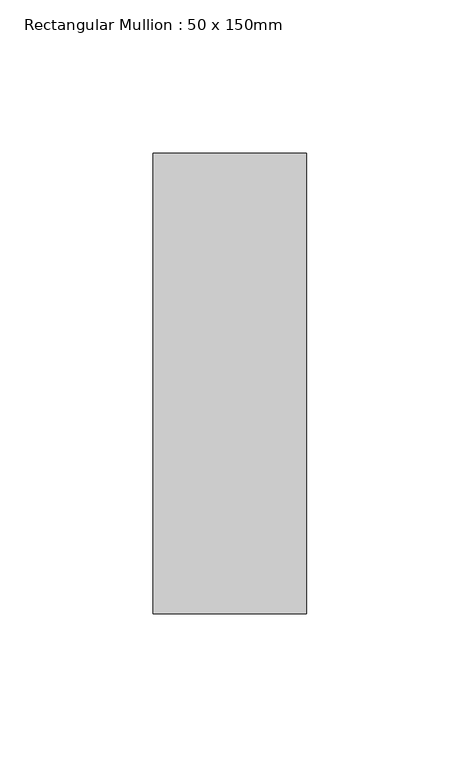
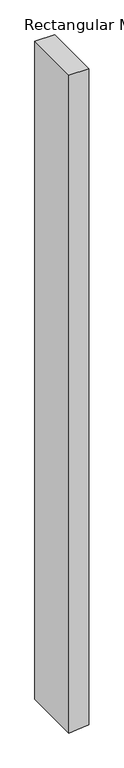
"""IFC4 building model written with IfcOpenShell, lengths in millimetres: member geometry, Rectangular Mullion : 50 x 150mm."""

import ifcopenshell
import ifcopenshell.guid

model = None  # the IFC model being written
_history = None  # IfcOwnerHistory: only IFC2X3 demands one
_inside = {}  # id of a spatial element -> (the spatial element, [elements in it])
_under = {}  # id of a project, library or spatial element -> (it, [spatial elements below it])
_declared = {}  # id of a project -> (the project, [libraries it declares])
_typed = {}  # id of a type object -> (the type object, [elements of that type])
_made_of = {}  # id of a material, layer set ... -> (it, [elements and type objects made of it])


def new_model(schema):
    """Start an empty IFC model of exactly this schema.

    Asked for "IFC4X3", IfcOpenShell would pick the latest addendum, in which some entities
    have other attributes; the version numbers below select the first issue.
    IFC2X3 requires an IfcOwnerHistory on every rooted entity: one is made here for all.
    """
    global model, _history
    if schema == "IFC4X3":
        model = ifcopenshell.file(schema_version=(4, 3, 0, 0))
    else:
        model = ifcopenshell.file(schema=schema)
    _inside.clear()
    _under.clear()
    _declared.clear()
    _typed.clear()
    _made_of.clear()
    _history = None
    if model.schema == "IFC2X3":
        org = make("IfcOrganization", Name="unknown")
        user = make(
            "IfcPersonAndOrganization",
            ThePerson=make("IfcPerson", FamilyName="unknown"),
            TheOrganization=org,
        )
        app = make(
            "IfcApplication",
            ApplicationDeveloper=org,
            Version="unknown",
            ApplicationFullName="unknown",
            ApplicationIdentifier="unknown",
        )
        _history = make(
            "IfcOwnerHistory",
            OwningUser=user,
            OwningApplication=app,
            ChangeAction="ADDED",
            CreationDate=0,
        )
    return model


def make(cls, **values):
    """One entity of the class cls with the attributes given. An attribute that is None is left unset."""
    return model.create_entity(
        cls, **{name: value for name, value in values.items() if value is not None}
    )


def rooted(cls, **values):
    """An entity with a GlobalId (a new one), such as an element, a storey or a relation."""
    return make(cls, GlobalId=ifcopenshell.guid.new(), OwnerHistory=_history, **values)


def si_unit(unit_type, name, prefix=None):
    """IfcSIUnit, for example si_unit("LENGTHUNIT", "METRE", prefix="MILLI")."""
    return make("IfcSIUnit", UnitType=unit_type, Prefix=prefix, Name=name)


def assignment(units):
    """IfcUnitAssignment: the units of a project."""
    return None if units is None else make("IfcUnitAssignment", Units=units)


def point(xyz):
    """IfcCartesianPoint."""
    return None if xyz is None else make("IfcCartesianPoint", Coordinates=xyz)


def direction(xyz):
    """IfcDirection."""
    return None if xyz is None else make("IfcDirection", DirectionRatios=xyz)


def frame(location, z_axis=None, x_axis=None):
    """IfcAxis2Placement3D, a coordinate frame: its origin and axes. An axis left out is left unset."""
    return make(
        "IfcAxis2Placement3D",
        Location=point(location),
        Axis=direction(z_axis),
        RefDirection=direction(x_axis),
    )


def origin():
    """The frame at (0, 0, 0) with its axes left unset."""
    return frame((0.0, 0.0, 0.0))


def place(relative_to, where):
    """IfcLocalPlacement: puts the frame where relative to a parent placement (None: the world)."""
    return make(
        "IfcLocalPlacement", PlacementRelTo=relative_to, RelativePlacement=where
    )


def context(
    kind, dimensions, precision=None, world=None, true_north=None, identifier=None
):
    """IfcGeometricRepresentationContext, for example the 3D "Model" context."""
    return make(
        "IfcGeometricRepresentationContext",
        ContextIdentifier=identifier,
        ContextType=kind,
        CoordinateSpaceDimension=dimensions,
        Precision=precision,
        WorldCoordinateSystem=world,
        TrueNorth=true_north,
    )


def project(units=None, contexts=None):
    """IfcProject with its units and contexts."""
    return rooted(
        "IfcProject",
        Name="project",
        RepresentationContexts=contexts,
        UnitsInContext=assignment(units),
    )


def spatial(cls, under=None, at=None, **own):
    """A site, building, storey or space (cls), placed at a placement, below another one or the project."""
    s = rooted(cls, ObjectPlacement=at, **own)
    if under is not None:
        _under.setdefault(under.id(), (under, []))[1].append(s)
    return s


def polyline(points):
    """IfcPolyline through the points."""
    return make("IfcPolyline", Points=[point(p) for p in points])


def outline(outer, holes=None, kind="AREA"):
    """IfcArbitraryClosedProfileDef: a profile drawn as a closed curve; with holes, ...WithVoids."""
    if holes is None:
        return make("IfcArbitraryClosedProfileDef", ProfileType=kind, OuterCurve=outer)
    return make(
        "IfcArbitraryProfileDefWithVoids",
        ProfileType=kind,
        OuterCurve=outer,
        InnerCurves=holes,
    )


def extrude(swept, where, along, depth):
    """IfcExtrudedAreaSolid: the profile swept, set in the frame where, extruded along a direction by depth."""
    return make(
        "IfcExtrudedAreaSolid",
        SweptArea=swept,
        Position=where,
        ExtrudedDirection=direction(along),
        Depth=depth,
    )


def shape(context_of_items, identifier, shape_type, items):
    """IfcShapeRepresentation: the items that make up one representation, for example the "Body"."""
    return make(
        "IfcShapeRepresentation",
        ContextOfItems=context_of_items,
        RepresentationIdentifier=identifier,
        RepresentationType=shape_type,
        Items=items,
    )


def source(mapping_origin, context_of_items, identifier, shape_type, items):
    """IfcRepresentationMap: a shape defined once, which mapped items show again and again."""
    return make(
        "IfcRepresentationMap",
        MappingOrigin=mapping_origin,
        MappedRepresentation=shape(context_of_items, identifier, shape_type, items),
    )


def transform(
    local_origin,
    x_axis=None,
    y_axis=None,
    z_axis=None,
    scale=None,
    scale2=None,
    scale3=None,
    uniform=True,
):
    """IfcCartesianTransformationOperator3D, or its non-uniform kind. x_axis, y_axis, z_axis: its Axis1, 2, 3."""
    if uniform:
        return make(
            "IfcCartesianTransformationOperator3D",
            Axis1=direction(x_axis),
            Axis2=direction(y_axis),
            LocalOrigin=point(local_origin),
            Scale=scale,
            Axis3=direction(z_axis),
        )
    return make(
        "IfcCartesianTransformationOperator3DnonUniform",
        Axis1=direction(x_axis),
        Axis2=direction(y_axis),
        LocalOrigin=point(local_origin),
        Scale=scale,
        Axis3=direction(z_axis),
        Scale2=scale2,
        Scale3=scale3,
    )


def mapped(mapping_source, mapping_target):
    """IfcMappedItem: shows the shape of a source again, moved by a transform."""
    return make(
        "IfcMappedItem", MappingSource=mapping_source, MappingTarget=mapping_target
    )


def made_of(thing, what):
    """Note that an element or type object is made of a material, layer set ...; save() writes the relation."""
    if what is not None:
        _made_of.setdefault(what.id(), (what, []))[1].append(thing)
    return thing


def element(
    cls,
    number,
    at=None,
    inside=None,
    cuts=None,
    type_object=None,
    material=None,
    context=None,
    identifier="Body",
    shape_type=None,
    held_by="IfcProductDefinitionShape",
    body=None,
    shapes=None,
    **own,
):
    """One element of the class cls, such as IfcWall. Its Tag is "e" and its number.

    at: its placement. inside: the storey or other place that contains it. cuts: it is an
    opening in that element (IfcRelVoidsElement). A single representation is given by context,
    identifier, shape_type and body (its items); several are given by shapes. held_by: the class
    of the entity that holds the representations. save() writes the other relations.
    """
    e = rooted(cls, Tag="e%d" % number, ObjectPlacement=at, **own)
    if body is not None:
        shapes = [shape(context, identifier, shape_type, body)]
    if shapes is not None:
        e.Representation = make(held_by, Representations=shapes)
    if inside is not None:
        _inside.setdefault(inside.id(), (inside, []))[1].append(e)
    if cuts is not None:
        rooted(
            "IfcRelVoidsElement", RelatingBuildingElement=cuts, RelatedOpeningElement=e
        )
    if type_object is not None:
        _typed.setdefault(type_object.id(), (type_object, []))[1].append(e)
    return made_of(e, material)


def aggregate(whole, parts):
    """IfcRelAggregates: a whole, such as a stair, and the parts it consists of."""
    return rooted("IfcRelAggregates", RelatingObject=whole, RelatedObjects=parts)


def save(model, path):
    """Write the relations noted so far, then the file.

    IfcRelAggregates (storeys below a building ...), IfcRelContainedInSpatialStructure (elements
    in a storey), IfcRelDefinesByType, IfcRelAssociatesMaterial and IfcRelDeclares: one each for
    every whole, place, type object, material and project.
    """
    for whole, parts in _under.values():
        aggregate(whole, parts)
    for where, things in _inside.values():
        rooted(
            "IfcRelContainedInSpatialStructure",
            RelatedElements=things,
            RelatingStructure=where,
        )
    for kind, things in _typed.values():
        rooted("IfcRelDefinesByType", RelatedObjects=things, RelatingType=kind)
    for what, things in _made_of.values():
        rooted("IfcRelAssociatesMaterial", RelatedObjects=things, RelatingMaterial=what)
    for by, libraries in _declared.values():
        rooted("IfcRelDeclares", RelatingContext=by, RelatedDefinitions=libraries)
    model.write(path)


def rectangular_mullion_50_x_150mm_4e51a889(model_context):
    return source(origin(), model_context, "Body", "SweptSolid", [
        extrude(outline(polyline([(0.0, 25.0), (0.0, -25.0), (-1766.6593098, -25.0), (-1764.6485427, -5.0022633), (-1761.6318231, 25.0), (0.0, 25.0)])), frame((0.0, -75.0, 0.0), z_axis=(0.0, 1.0, 0.0), x_axis=(0.0, 0.0, 1.0)), (0.0, 0.0, 1.0), 150.0),
    ])


if __name__ == "__main__":
    model = new_model("IFC4")
    model_context = context("Model", 3, world=origin())
    ifc_project = project(units=[si_unit("LENGTHUNIT", "METRE", prefix="MILLI")], contexts=[model_context])
    site = spatial("IfcSite", under=ifc_project)
    building = spatial("IfcBuilding", under=site)
    placement = place(None, origin())
    rectangular_mullion_50_x_150mm_shape = rectangular_mullion_50_x_150mm_4e51a889(model_context)
    element("IfcMember", 1, ObjectType="Rectangular Mullion : 50 x 150mm", at=placement, inside=building, context=model_context, shape_type="MappedRepresentation", body=[
        mapped(rectangular_mullion_50_x_150mm_shape, transform((0.0, 0.0, 0.0), x_axis=(1.0, 0.0, 0.0), y_axis=(0.0, 1.0, 0.0), z_axis=(0.0, 0.0, 1.0))),
    ])
    save(model, "model.ifc")
